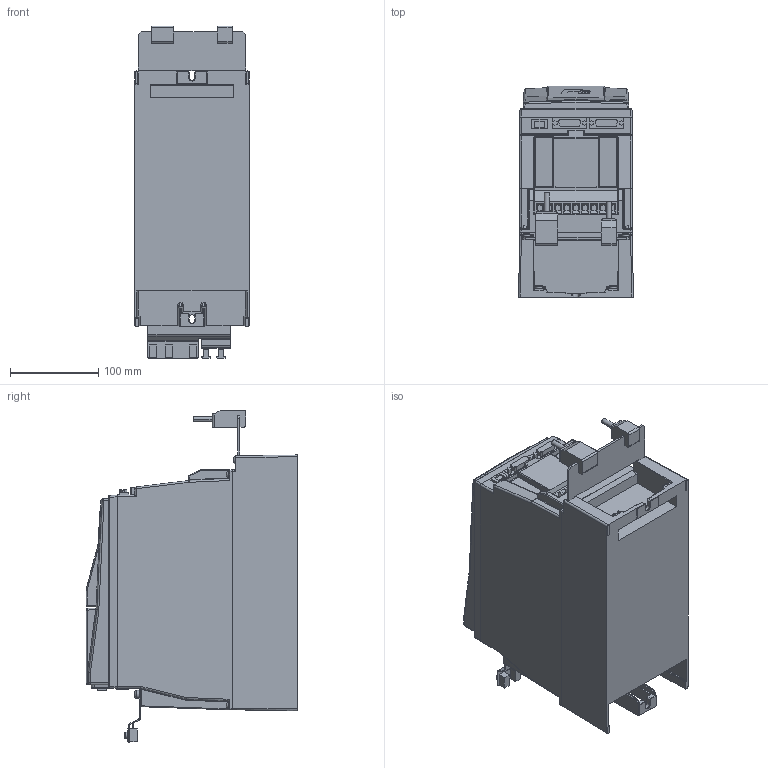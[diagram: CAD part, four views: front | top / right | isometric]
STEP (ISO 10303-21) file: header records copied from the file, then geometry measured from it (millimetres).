
FILE_DESCRIPTION (( 'STEP AP214' ), '1' );
FILE_NAME ('F6-2TR0-A011.STEP', '2020-11-30T13:30:34', ( '' ), ( '' ), 'SwSTEP 2.0', 'SolidWorks 2019', '' );
FILE_SCHEMA (( 'AUTOMOTIVE_DESIGN' ));
Length unit declared in the file: millimetre
Products named in the file (1): F6-2TR0-A011
Bounding box: 130 x 240 x 376.5 mm (x, y, z)
Volume: 7139909.4 mm3; surface area: 333773.5 mm2
Topology: 4 solids, 4 shells, 1542 faces, 3814 edges, 2279 vertices
Faces by surface type: plane 705, cylinder 443, bspline 245, torus 65, sphere 60, cone 24
Entity records: 53064 total; most frequent: CARTESIAN_POINT 18887, ORIENTED_EDGE 7484, DIRECTION 6512, EDGE_CURVE 3742, VERTEX_POINT 2279, AXIS2_PLACEMENT_3D 2195, LINE 2122, VECTOR 2122
